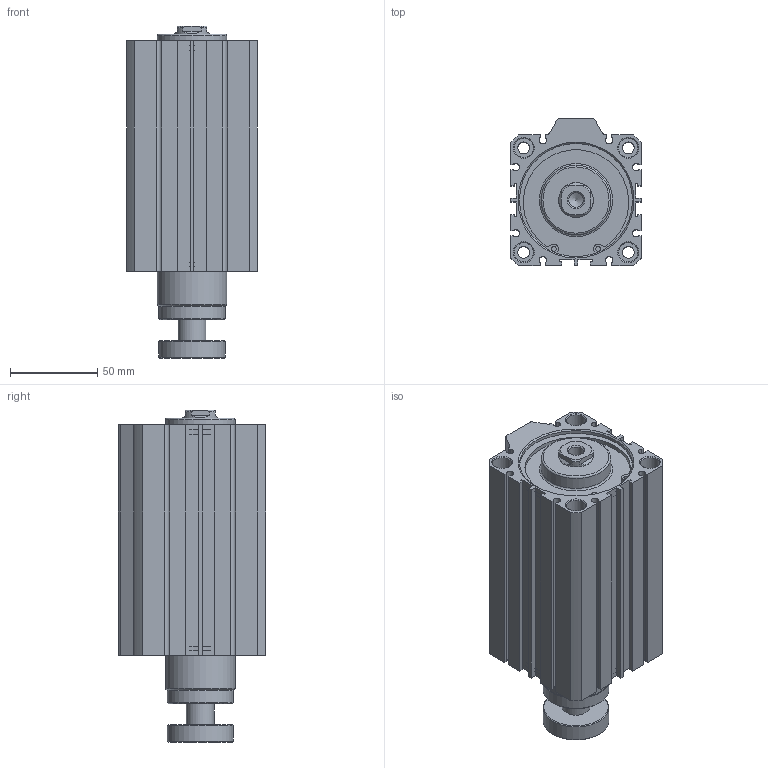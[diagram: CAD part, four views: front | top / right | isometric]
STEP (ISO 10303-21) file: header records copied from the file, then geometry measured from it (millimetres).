
FILE_DESCRIPTION((''),'2;1');
FILE_NAME('I:\3D電子目錄\氣缸\JDAR\JDAR-S\JDAR63-S\JDAR63x90-S.stp','2007-05-05T10:29:01',('662F206'),(''),'Autodesk Inventor 11','Autodesk Inventor 11','');
FILE_SCHEMA(('AUTOMOTIVE_DESIGN { 1 0 10303 214 1 1 1 1 }'));
Length unit declared in the file: millimetre
Products named in the file (3): JDAR63-S; R 形環 65
Assembly tree (3 placements, depth 2):
  JDAR63-S
    JDAR63-S
    R 形環 65  x2
Bounding box: 75 x 84.5 x 190.8 mm (x, y, z)
Volume: 742098 mm3; surface area: 99191.3 mm2
Topology: 3 solids, 3 shells, 197 faces, 484 edges, 317 vertices
Faces by surface type: plane 110, cylinder 58, cone 23, bspline 4, torus 2
Full cylindrical faces by diameter (mm): 2.7 x4, 3 x2, 6.8 x4, 11 x8, 16 x1, 20 x1, 38 x2, 40 x2, 65 x4, 68 x2
Entity records: 5335 total; most frequent: CARTESIAN_POINT 1013, DIRECTION 898, ORIENTED_EDGE 788, EDGE_CURVE 394, AXIS2_PLACEMENT_3D 325, VERTEX_POINT 290, EDGE_LOOP 274, VECTOR 248
